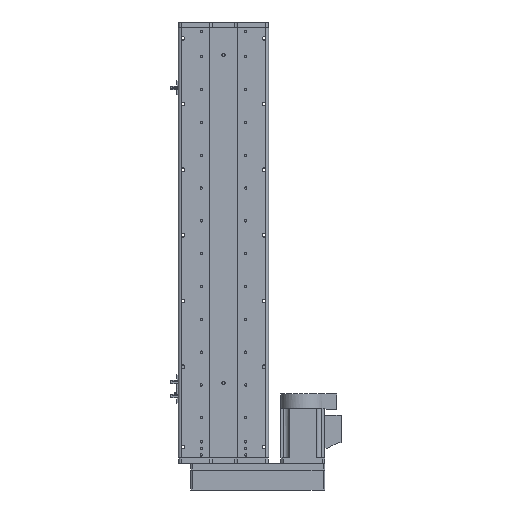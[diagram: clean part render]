
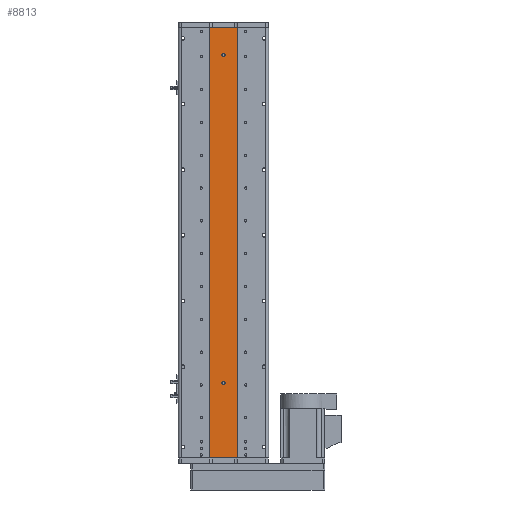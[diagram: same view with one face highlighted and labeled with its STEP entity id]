
A CAD part, front view. The second image highlights one B-rep face of the part: STEP entity #8813.
In plain terms, the highlighted planar face has unit normal (0, -1, 0).
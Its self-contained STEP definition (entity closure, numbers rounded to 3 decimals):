
#456 = VERTEX_POINT ( 'NONE', #27523 ) ;
#1745 = EDGE_CURVE ( 'NONE', #31150, #32428, #17826, .T. ) ;
#3740 = EDGE_CURVE ( 'NONE', #17484, #7971, #6530, .T. ) ;
#4593 = AXIS2_PLACEMENT_3D ( 'NONE', #34151, #6297, #38824 ) ;
#5791 = DIRECTION ( 'NONE',  ( 0., -1., 0. ) ) ;
#6077 = CARTESIAN_POINT ( 'NONE',  ( 0., 1., -253.5 ) ) ;
#6202 = CARTESIAN_POINT ( 'NONE',  ( 25., 1., -393.5 ) ) ;
#6297 = DIRECTION ( 'NONE',  ( 0., -1., 0. ) ) ;
#6530 = CIRCLE ( 'NONE', #41824, 3. ) ;
#6900 = DIRECTION ( 'NONE',  ( 0., -1., 0. ) ) ;
#7956 = VECTOR ( 'NONE', #29333, 1000. ) ;
#7971 = VERTEX_POINT ( 'NONE', #53607 ) ;
#8813 = ADVANCED_FACE ( 'NONE', ( #39346, #14688, #27022 ), #46754, .F. ) ;
#9123 = CARTESIAN_POINT ( 'NONE',  ( -25., 1., 393.5 ) ) ;
#10116 = CARTESIAN_POINT ( 'NONE',  ( -25., 1., -393.5 ) ) ;
#11665 = CARTESIAN_POINT ( 'NONE',  ( 0., 1., -256.5 ) ) ;
#12735 = VERTEX_POINT ( 'NONE', #52263 ) ;
#13834 = DIRECTION ( 'NONE',  ( 0., 0., -1. ) ) ;
#14688 = FACE_BOUND ( 'NONE', #43557, .T. ) ;
#16004 = ORIENTED_EDGE ( 'NONE', *, *, #48236, .F. ) ;
#16348 = CARTESIAN_POINT ( 'NONE',  ( 25., 1., 393.5 ) ) ;
#16395 = DIRECTION ( 'NONE',  ( 0., 0., -1. ) ) ;
#16705 = AXIS2_PLACEMENT_3D ( 'NONE', #33623, #5791, #38324 ) ;
#16907 = EDGE_CURVE ( 'NONE', #12735, #20076, #22979, .T. ) ;
#17484 = VERTEX_POINT ( 'NONE', #43625 ) ;
#17826 = LINE ( 'NONE', #9123, #42508 ) ;
#18416 = VECTOR ( 'NONE', #58141, 1000. ) ;
#19979 = ORIENTED_EDGE ( 'NONE', *, *, #1745, .T. ) ;
#20076 = VERTEX_POINT ( 'NONE', #6077 ) ;
#20334 = LINE ( 'NONE', #43131, #7956 ) ;
#20644 = CARTESIAN_POINT ( 'NONE',  ( 25., 1., 393.5 ) ) ;
#21321 = LINE ( 'NONE', #16348, #18416 ) ;
#22979 = CIRCLE ( 'NONE', #4593, 3. ) ;
#23494 = EDGE_CURVE ( 'NONE', #32428, #456, #53337, .T. ) ;
#23648 = DIRECTION ( 'NONE',  ( 0., 0., 1. ) ) ;
#27022 = FACE_OUTER_BOUND ( 'NONE', #27393, .T. ) ;
#27393 = EDGE_LOOP ( 'NONE', ( #58161, #51958, #31948, #19979 ) ) ;
#27523 = CARTESIAN_POINT ( 'NONE',  ( 25., 1., -393.5 ) ) ;
#28637 = VECTOR ( 'NONE', #34066, 1000. ) ;
#29333 = DIRECTION ( 'NONE',  ( 0., 0., -1. ) ) ;
#29654 = ORIENTED_EDGE ( 'NONE', *, *, #37265, .F. ) ;
#31150 = VERTEX_POINT ( 'NONE', #36066 ) ;
#31351 = EDGE_LOOP ( 'NONE', ( #35960, #16004 ) ) ;
#31948 = ORIENTED_EDGE ( 'NONE', *, *, #48792, .F. ) ;
#32428 = VERTEX_POINT ( 'NONE', #10116 ) ;
#32846 = CIRCLE ( 'NONE', #48765, 3. ) ;
#33623 = CARTESIAN_POINT ( 'NONE',  ( 0., 1., 343.5 ) ) ;
#34066 = DIRECTION ( 'NONE',  ( 1., 0., 0. ) ) ;
#34151 = CARTESIAN_POINT ( 'NONE',  ( 0., 1., -256.5 ) ) ;
#34756 = CARTESIAN_POINT ( 'NONE',  ( 0., 1., 343.5 ) ) ;
#35960 = ORIENTED_EDGE ( 'NONE', *, *, #16907, .F. ) ;
#36066 = CARTESIAN_POINT ( 'NONE',  ( -25., 1., 393.5 ) ) ;
#37265 = EDGE_CURVE ( 'NONE', #7971, #17484, #50677, .T. ) ;
#38324 = DIRECTION ( 'NONE',  ( 0., 0., -1. ) ) ;
#38633 = VERTEX_POINT ( 'NONE', #20644 ) ;
#38824 = DIRECTION ( 'NONE',  ( 0., 0., -1. ) ) ;
#39346 = FACE_BOUND ( 'NONE', #31351, .T. ) ;
#39408 = DIRECTION ( 'NONE',  ( 0., 0., -1. ) ) ;
#41824 = AXIS2_PLACEMENT_3D ( 'NONE', #34756, #6900, #39408 ) ;
#41905 = CARTESIAN_POINT ( 'NONE',  ( 25., 1., 393.5 ) ) ;
#42508 = VECTOR ( 'NONE', #13834, 1000. ) ;
#43131 = CARTESIAN_POINT ( 'NONE',  ( 25., 1., 393.5 ) ) ;
#43557 = EDGE_LOOP ( 'NONE', ( #46721, #29654 ) ) ;
#43625 = CARTESIAN_POINT ( 'NONE',  ( 0., 1., 340.5 ) ) ;
#44165 = DIRECTION ( 'NONE',  ( 0., -1., 0. ) ) ;
#46721 = ORIENTED_EDGE ( 'NONE', *, *, #3740, .F. ) ;
#46754 = PLANE ( 'NONE',  #58816 ) ;
#48236 = EDGE_CURVE ( 'NONE', #20076, #12735, #32846, .T. ) ;
#48765 = AXIS2_PLACEMENT_3D ( 'NONE', #11665, #44165, #16395 ) ;
#48792 = EDGE_CURVE ( 'NONE', #31150, #38633, #21321, .T. ) ;
#50237 = EDGE_CURVE ( 'NONE', #38633, #456, #20334, .T. ) ;
#50677 = CIRCLE ( 'NONE', #16705, 3. ) ;
#51474 = DIRECTION ( 'NONE',  ( 0., 1., 0. ) ) ;
#51958 = ORIENTED_EDGE ( 'NONE', *, *, #50237, .F. ) ;
#52263 = CARTESIAN_POINT ( 'NONE',  ( 0., 1., -259.5 ) ) ;
#53337 = LINE ( 'NONE', #6202, #28637 ) ;
#53607 = CARTESIAN_POINT ( 'NONE',  ( 0., 1., 346.5 ) ) ;
#58141 = DIRECTION ( 'NONE',  ( 1., 0., 0. ) ) ;
#58161 = ORIENTED_EDGE ( 'NONE', *, *, #23494, .T. ) ;
#58816 = AXIS2_PLACEMENT_3D ( 'NONE', #41905, #51474, #23648 ) ;
